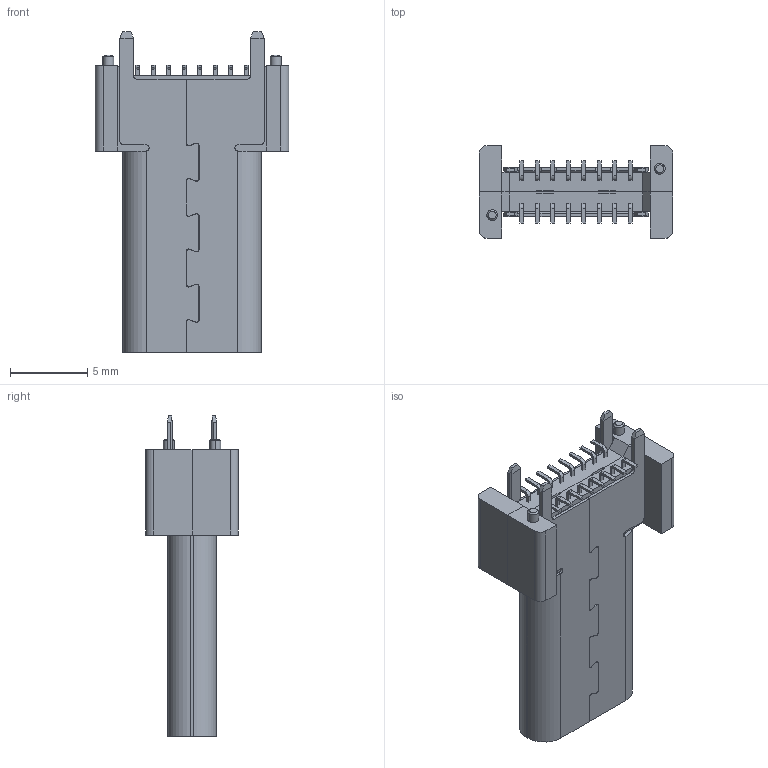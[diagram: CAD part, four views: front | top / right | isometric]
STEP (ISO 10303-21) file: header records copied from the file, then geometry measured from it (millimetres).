
FILE_DESCRIPTION((''),'2;1');
FILE_NAME('TYPE-16PIN_18_5-0910_ASM_1_ASM__ASM','2024-09-12T21:35:06',('27716'),('FoxCAVITY'),'CREO PARAMETRIC BY PTC INC, 2021404','CREO PARAMETRIC BY PTC INC, 2021404','');
FILE_SCHEMA(('AUTOMOTIVE_DESIGN { 1 0 10303 214 1 1 1 1 }'));
Length unit declared in the file: millimetre
Products named in the file (10): UP_MD160_1_45_1_1_1_1_1_1_1_1_2; 16P-PIN-DIP-T_1_1_1_1_1_1_2_1_3; MD_ASM_2_ASM_1_ASM_1_ASM_1_AS_2_ASM; MID-ASSE160_ASM_8_ASM_1_ASM_1_2_ASM; 1-MD_ASM_2_ASM_1_ASM_1_ASM_1__2_ASM; 2M_160_86_1_1_1_1_1_1_1_1_1_1_2; FEMALE-H17-5-S_1_1_1_1_1_2_1__2; REC_15_ASM_1_ASM_1_ASM_1_ASM__2_ASM; MID-PLATE160_180_PRT_32_1_1_1_1; TYPE-16PIN_18_5-0910_ASM_1_ASM__ASM
Assembly tree (10 placements, depth 5):
  TYPE-16PIN_18_5-0910_ASM_1_ASM__ASM
    REC_15_ASM_1_ASM_1_ASM_1_ASM__2_ASM
      1-MD_ASM_2_ASM_1_ASM_1_ASM_1__2_ASM
        MD_ASM_2_ASM_1_ASM_1_ASM_1_AS_2_ASM  x2
          UP_MD160_1_45_1_1_1_1_1_1_1_1_2
          16P-PIN-DIP-T_1_1_1_1_1_1_2_1_3
        MID-ASSE160_ASM_8_ASM_1_ASM_1_2_ASM
      2M_160_86_1_1_1_1_1_1_1_1_1_1_2
      FEMALE-H17-5-S_1_1_1_1_1_2_1__2
    MID-PLATE160_180_PRT_32_1_1_1_1
Bounding box: 12.5 x 6 x 20.7 mm (x, y, z)
Volume: 599.8 mm3; surface area: 2346.8 mm2
Topology: 21 solids, 21 shells, 2108 faces, 6013 edges, 3986 vertices
Faces by surface type: plane 1588, cylinder 476, cone 44
Entity records: 51118 total; most frequent: CARTESIAN_POINT 7644, ORIENTED_EDGE 7274, DIRECTION 6877, EDGE_CURVE 3637, VECTOR 2931, LINE 2931, PRESENTATION_STYLE_ASSIGNMENT 2771, STYLED_ITEM 2771
